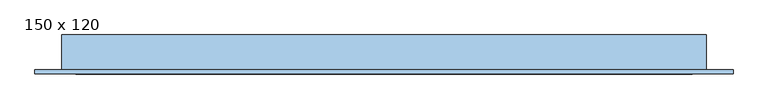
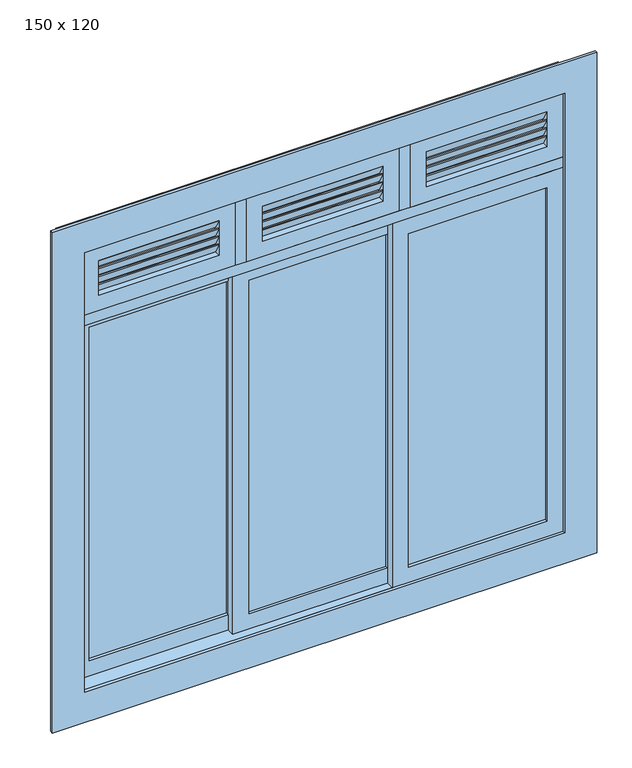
"""IFC4 building model written with IfcOpenShell, lengths in millimetres: window geometry, JANELA COM ESQUADRIA DE CORRER - 3 FOLHAS + BANDEIRA VENEZIANA - 3 FOLHAS : 150 x 120."""

from ifc_helpers import new_model, si_unit, frame, origin, place, context, project, spatial, polyline, outline, extrude, source, transform, mapped, element, save


def window_150_x_120_577b85d9(model_context):
    return source(origin(), model_context, "Body", "SweptSolid", [
        extrude(outline(polyline([(-55.8758395, 2338.3333333), (-75.8758395, 2373.3333333), (-70.8758395, 2373.3333333), (-50.8758395, 2338.3333333), (-55.8758395, 2338.3333333)])), frame((-58.9297824, 0.0, 0.0), z_axis=(1.0, 0.0, 0.0), x_axis=(0.0, 1.0, 0.0)), (0.0, 0.0, 1.0), 376.6666667),
        extrude(outline(polyline([(-55.8758395, 2311.6666667), (-75.8758395, 2346.6666667), (-70.8758395, 2346.6666667), (-50.8758395, 2311.6666667), (-55.8758395, 2311.6666667)])), frame((-58.9297824, 0.0, 0.0), z_axis=(1.0, 0.0, 0.0), x_axis=(0.0, 1.0, 0.0)), (0.0, 0.0, 1.0), 376.6666667),
        extrude(outline(polyline([(-55.8758395, 2365.0), (-75.8758395, 2400.0), (-70.8758395, 2400.0), (-50.8758395, 2365.0), (-55.8758395, 2365.0)])), frame((-58.9297824, 0.0, 0.0), z_axis=(1.0, 0.0, 0.0), x_axis=(0.0, 1.0, 0.0)), (0.0, 0.0, 1.0), 376.6666667),
        extrude(outline(polyline([(-55.8758395, 2285.0), (-75.8758395, 2320.0), (-70.8758395, 2320.0), (-50.8758395, 2285.0), (-55.8758395, 2285.0)])), frame((-58.9297824, 0.0, 0.0), z_axis=(1.0, 0.0, 0.0), x_axis=(0.0, 1.0, 0.0)), (0.0, 0.0, 1.0), 376.6666667),
        extrude(outline(polyline([(2450.0, 367.7368843), (2450.0, -108.9297824), (2235.0, -108.9297824), (2235.0, 367.7368843), (2450.0, 367.7368843)]), holes=[polyline([(2400.0, 317.7368843), (2285.0, 317.7368843), (2285.0, -58.9297824), (2400.0, -58.9297824), (2400.0, 317.7368843)])]), frame((0.0, -75.8758395, 0.0), z_axis=(0.0, 1.0, 0.0), x_axis=(0.0, 0.0, 1.0)), (0.0, 0.0, 1.0), 25.0),
        extrude(outline(polyline([(346.0702176, -35.3758395), (346.0702176, -41.3758395), (-87.2631157, -41.3758395), (-87.2631157, -35.3758395), (346.0702176, -35.3758395)])), frame((0.0, 0.0, 1050.0), z_axis=(0.0, 0.0, 1.0), x_axis=(1.0, 0.0, 0.0)), (0.0, 0.0, 1.0), 1100.0),
        extrude(outline(polyline([(2200.0, 396.0702176), (2200.0, -137.2631157), (1000.0, -137.2631157), (1000.0, 396.0702176), (2200.0, 396.0702176)]), holes=[polyline([(2150.0, 346.0702176), (1050.0, 346.0702176), (1050.0, -87.2631157), (2150.0, -87.2631157), (2150.0, 346.0702176)])]), frame((0.0, -50.8758395, 0.0), z_axis=(0.0, 1.0, 0.0), x_axis=(0.0, 0.0, 1.0)), (0.0, 0.0, 1.0), 25.0),
        extrude(outline(polyline([(-55.8758395, 2338.3333333), (-75.8758395, 2373.3333333), (-70.8758395, 2373.3333333), (-50.8758395, 2338.3333333), (-55.8758395, 2338.3333333)])), frame((452.7368843, 0.0, 0.0), z_axis=(1.0, 0.0, 0.0), x_axis=(0.0, 1.0, 0.0)), (0.0, 0.0, 1.0), 376.6666667),
        extrude(outline(polyline([(-55.8758395, 2311.6666667), (-75.8758395, 2346.6666667), (-70.8758395, 2346.6666667), (-50.8758395, 2311.6666667), (-55.8758395, 2311.6666667)])), frame((452.7368843, 0.0, 0.0), z_axis=(1.0, 0.0, 0.0), x_axis=(0.0, 1.0, 0.0)), (0.0, 0.0, 1.0), 376.6666667),
        extrude(outline(polyline([(-55.8758395, 2365.0), (-75.8758395, 2400.0), (-70.8758395, 2400.0), (-50.8758395, 2365.0), (-55.8758395, 2365.0)])), frame((452.7368843, 0.0, 0.0), z_axis=(1.0, 0.0, 0.0), x_axis=(0.0, 1.0, 0.0)), (0.0, 0.0, 1.0), 376.6666667),
        extrude(outline(polyline([(-55.8758395, 2285.0), (-75.8758395, 2320.0), (-70.8758395, 2320.0), (-50.8758395, 2285.0), (-55.8758395, 2285.0)])), frame((452.7368843, 0.0, 0.0), z_axis=(1.0, 0.0, 0.0), x_axis=(0.0, 1.0, 0.0)), (0.0, 0.0, 1.0), 376.6666667),
        extrude(outline(polyline([(2450.0, 879.4035509), (2450.0, 402.7368843), (2235.0, 402.7368843), (2235.0, 879.4035509), (2450.0, 879.4035509)]), holes=[polyline([(2400.0, 829.4035509), (2285.0, 829.4035509), (2285.0, 452.7368843), (2400.0, 452.7368843), (2400.0, 829.4035509)])]), frame((0.0, -75.8758395, 0.0), z_axis=(0.0, 1.0, 0.0), x_axis=(0.0, 0.0, 1.0)), (0.0, 0.0, 1.0), 25.0),
        extrude(outline(polyline([(-55.8758395, 2338.3333333), (-75.8758395, 2373.3333333), (-70.8758395, 2373.3333333), (-50.8758395, 2338.3333333), (-55.8758395, 2338.3333333)])), frame((-570.5964491, 0.0, 0.0), z_axis=(1.0, 0.0, 0.0), x_axis=(0.0, 1.0, 0.0)), (0.0, 0.0, 1.0), 376.6666667),
        extrude(outline(polyline([(-55.8758395, 2311.6666667), (-75.8758395, 2346.6666667), (-70.8758395, 2346.6666667), (-50.8758395, 2311.6666667), (-55.8758395, 2311.6666667)])), frame((-570.5964491, 0.0, 0.0), z_axis=(1.0, 0.0, 0.0), x_axis=(0.0, 1.0, 0.0)), (0.0, 0.0, 1.0), 376.6666667),
        extrude(outline(polyline([(-55.8758395, 2365.0), (-75.8758395, 2400.0), (-70.8758395, 2400.0), (-50.8758395, 2365.0), (-55.8758395, 2365.0)])), frame((-570.5964491, 0.0, 0.0), z_axis=(1.0, 0.0, 0.0), x_axis=(0.0, 1.0, 0.0)), (0.0, 0.0, 1.0), 376.6666667),
        extrude(outline(polyline([(-55.8758395, 2285.0), (-75.8758395, 2320.0), (-70.8758395, 2320.0), (-50.8758395, 2285.0), (-55.8758395, 2285.0)])), frame((-570.5964491, 0.0, 0.0), z_axis=(1.0, 0.0, 0.0), x_axis=(0.0, 1.0, 0.0)), (0.0, 0.0, 1.0), 376.6666667),
        extrude(outline(polyline([(2450.0, -143.9297824), (2450.0, -620.5964491), (2235.0, -620.5964491), (2235.0, -143.9297824), (2450.0, -143.9297824)]), holes=[polyline([(2400.0, -193.9297824), (2285.0, -193.9297824), (2285.0, -570.5964491), (2400.0, -570.5964491), (2400.0, -193.9297824)])]), frame((0.0, -75.8758395, 0.0), z_axis=(0.0, 1.0, 0.0), x_axis=(0.0, 0.0, 1.0)), (0.0, 0.0, 1.0), 25.0),
        extrude(outline(polyline([(-570.5964491, -10.3758395), (-137.2631157, -10.3758395), (-137.2631157, -16.3758395), (-570.5964491, -16.3758395), (-570.5964491, -10.3758395)])), frame((0.0, 0.0, 1050.0), z_axis=(0.0, 0.0, 1.0), x_axis=(1.0, 0.0, 0.0)), (0.0, 0.0, 1.0), 1100.0),
        extrude(outline(polyline([(2200.0, -620.5964491), (1000.0, -620.5964491), (1000.0, -87.2631157), (2200.0, -87.2631157), (2200.0, -620.5964491)]), holes=[polyline([(2150.0, -570.5964491), (2150.0, -137.2631157), (1050.0, -137.2631157), (1050.0, -570.5964491), (2150.0, -570.5964491)])]), frame((0.0, -25.8758395, 0.0), z_axis=(0.0, 1.0, 0.0), x_axis=(0.0, 0.0, 1.0)), (0.0, 0.0, 1.0), 25.0),
        extrude(outline(polyline([(829.4035509, -60.3758395), (829.4035509, -66.3758395), (396.0702176, -66.3758395), (396.0702176, -60.3758395), (829.4035509, -60.3758395)])), frame((0.0, 0.0, 1050.0), z_axis=(0.0, 0.0, 1.0), x_axis=(1.0, 0.0, 0.0)), (0.0, 0.0, 1.0), 1100.0),
        extrude(outline(polyline([(2200.0, 879.4035509), (2200.0, 346.0702176), (1000.0, 346.0702176), (1000.0, 879.4035509), (2200.0, 879.4035509)]), holes=[polyline([(2150.0, 829.4035509), (1050.0, 829.4035509), (1050.0, 396.0702176), (2150.0, 396.0702176), (2150.0, 829.4035509)])]), frame((0.0, -75.8758395, 0.0), z_axis=(0.0, 1.0, 0.0), x_axis=(0.0, 0.0, 1.0)), (0.0, 0.0, 1.0), 25.0),
        extrude(outline(polyline([(900.0, -720.5964491), (900.0, 979.4035509), (2550.0, 979.4035509), (2550.0, -720.5964491), (900.0, -720.5964491)]), holes=[polyline([(2450.0, -620.5964491), (2450.0, 879.4035509), (1000.0, 879.4035509), (1000.0, -620.5964491), (2450.0, -620.5964491)])]), frame((0.0, -85.8758395, 0.0), z_axis=(0.0, 1.0, 0.0), x_axis=(0.0, 0.0, 1.0)), (0.0, 0.0, 1.0), 10.0),
        extrude(outline(polyline([(-655.5964491, 9.1241605), (-620.5964491, 9.1241605), (-620.5964491, -75.8758395), (-655.5964491, -75.8758395), (-655.5964491, 9.1241605)])), frame((0.0, 0.0, 1000.0), z_axis=(0.0, 0.0, 1.0), x_axis=(1.0, 0.0, 0.0)), (0.0, 0.0, 1.0), 1450.0),
        extrude(outline(polyline([(879.4035509, 9.1241605), (914.4035509, 9.1241605), (914.4035509, -75.8758395), (879.4035509, -75.8758395), (879.4035509, 9.1241605)])), frame((0.0, 0.0, 1000.0), z_axis=(0.0, 0.0, 1.0), x_axis=(1.0, 0.0, 0.0)), (0.0, 0.0, 1.0), 1450.0),
        extrude(outline(polyline([(-655.5964491, 9.1241605), (914.4035509, 9.1241605), (914.4035509, -75.8758395), (-655.5964491, -75.8758395), (-655.5964491, 9.1241605)])), frame((0.0, 0.0, 965.0), z_axis=(0.0, 0.0, 1.0), x_axis=(1.0, 0.0, 0.0)), (0.0, 0.0, 1.0), 35.0),
        extrude(outline(polyline([(-108.9297824, 9.1241605), (-108.9297824, -75.8758395), (-143.9297824, -75.8758395), (-143.9297824, 9.1241605), (-108.9297824, 9.1241605)])), frame((0.0, 0.0, 2235.0), z_axis=(0.0, 0.0, 1.0), x_axis=(1.0, 0.0, 0.0)), (0.0, 0.0, 1.0), 215.0),
        extrude(outline(polyline([(402.7368843, 9.1241605), (402.7368843, -75.8758395), (367.7368843, -75.8758395), (367.7368843, 9.1241605), (402.7368843, 9.1241605)])), frame((0.0, 0.0, 2235.0), z_axis=(0.0, 0.0, 1.0), x_axis=(1.0, 0.0, 0.0)), (0.0, 0.0, 1.0), 215.0),
        extrude(outline(polyline([(-655.5964491, 9.1241605), (914.4035509, 9.1241605), (914.4035509, -75.8758395), (-655.5964491, -75.8758395), (-655.5964491, 9.1241605)])), frame((0.0, 0.0, 2450.0), z_axis=(0.0, 0.0, 1.0), x_axis=(1.0, 0.0, 0.0)), (0.0, 0.0, 1.0), 35.0),
        extrude(outline(polyline([(-620.5964491, 9.1241605), (879.4035509, 9.1241605), (879.4035509, -75.8758395), (-620.5964491, -75.8758395), (-620.5964491, 9.1241605)])), frame((0.0, 0.0, 2200.0), z_axis=(0.0, 0.0, 1.0), x_axis=(1.0, 0.0, 0.0)), (0.0, 0.0, 1.0), 35.0),
    ])


if __name__ == "__main__":
    model = new_model("IFC4")
    model_context = context("Model", 3, world=origin())
    ifc_project = project(units=[si_unit("LENGTHUNIT", "METRE", prefix="MILLI")], contexts=[model_context])
    site = spatial("IfcSite", under=ifc_project)
    building = spatial("IfcBuilding", under=site)
    placement = place(None, origin())
    window_150_x_120_shape = window_150_x_120_577b85d9(model_context)
    element("IfcWindow", 1, ObjectType="JANELA COM ESQUADRIA DE CORRER - 3 FOLHAS + BANDEIRA VENEZIANA - 3 FOLHAS : 150 x 120", at=placement, inside=building, context=model_context, shape_type="MappedRepresentation", body=[
        mapped(window_150_x_120_shape, transform((0.0, 0.0, 0.0), x_axis=(1.0, 0.0, 0.0), y_axis=(0.0, 1.0, 0.0), z_axis=(0.0, 0.0, 1.0))),
    ])
    save(model, "model.ifc")
